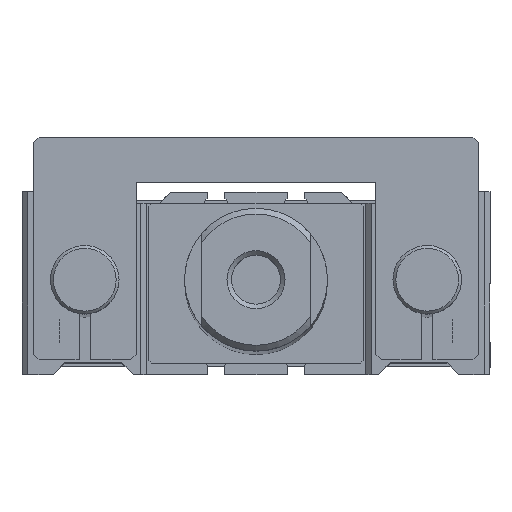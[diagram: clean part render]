
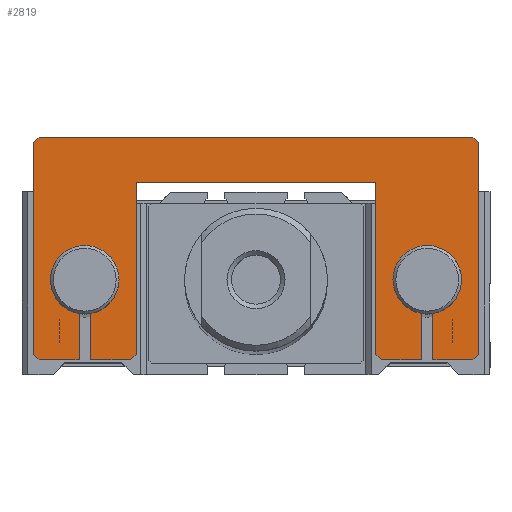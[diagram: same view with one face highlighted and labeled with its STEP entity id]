
A CAD part, top view. The second image highlights one B-rep face of the part: STEP entity #2819.
In plain terms, the highlighted planar face has unit normal (0, 0, 1).
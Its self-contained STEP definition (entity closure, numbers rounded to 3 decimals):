
#291=CARTESIAN_POINT('',(-29.0,-5.916,379.0));
#292=VERTEX_POINT('',#291);
#293=CARTESIAN_POINT('',(-31.0,-5.916,379.0));
#294=VERTEX_POINT('',#293);
#295=CARTESIAN_POINT('',(-30.0,0.0,379.0));
#296=DIRECTION('',(0.0,0.0,1.0));
#297=DIRECTION('',(0.0,-1.0,0.0));
#298=AXIS2_PLACEMENT_3D('',#295,#296,#297);
#299=CIRCLE('',#298,6.);
#300=EDGE_CURVE('',#292,#294,#299,.T.);
#378=CARTESIAN_POINT('',(31.,-5.916,379.0));
#379=VERTEX_POINT('',#378);
#380=CARTESIAN_POINT('',(29.,-5.916,379.0));
#381=VERTEX_POINT('',#380);
#382=CARTESIAN_POINT('',(30.0,0.0,379.0));
#383=DIRECTION('',(0.0,0.0,1.0));
#384=DIRECTION('',(0.0,-1.0,0.0));
#385=AXIS2_PLACEMENT_3D('',#382,#383,#384);
#386=CIRCLE('',#385,6.);
#387=EDGE_CURVE('',#379,#381,#386,.T.);
#2365=CARTESIAN_POINT('',(-39.0,24.,379.0));
#2366=VERTEX_POINT('',#2365);
#2367=CARTESIAN_POINT('',(-38.0,25.,379.0));
#2368=VERTEX_POINT('',#2367);
#2369=CARTESIAN_POINT('',(-39.0,24.,379.0));
#2370=DIRECTION('',(0.707,0.707,0.0));
#2371=VECTOR('',#2370,1.414);
#2372=LINE('',#2369,#2371);
#2373=EDGE_CURVE('',#2366,#2368,#2372,.T.);
#2429=CARTESIAN_POINT('',(-39.0,-13.,379.0));
#2430=VERTEX_POINT('',#2429);
#2437=CARTESIAN_POINT('',(-39.0,24.,379.0));
#2438=DIRECTION('',(0.0,-1.0,0.0));
#2439=VECTOR('',#2438,37.0);
#2440=LINE('',#2437,#2439);
#2441=EDGE_CURVE('',#2366,#2430,#2440,.T.);
#2622=CARTESIAN_POINT('',(38.0,25.,379.0));
#2623=VERTEX_POINT('',#2622);
#2630=CARTESIAN_POINT('',(39.0,24.,379.0));
#2631=VERTEX_POINT('',#2630);
#2632=CARTESIAN_POINT('',(38.0,25.,379.0));
#2633=DIRECTION('',(0.707,-0.707,0.0));
#2634=VECTOR('',#2633,1.414);
#2635=LINE('',#2632,#2634);
#2636=EDGE_CURVE('',#2623,#2631,#2635,.T.);
#2653=CARTESIAN_POINT('',(39.0,-13.,379.0));
#2654=VERTEX_POINT('',#2653);
#2655=CARTESIAN_POINT('',(39.0,-13.,379.0));
#2656=DIRECTION('',(0.0,1.0,0.0));
#2657=VECTOR('',#2656,37.0);
#2658=LINE('',#2655,#2657);
#2659=EDGE_CURVE('',#2654,#2631,#2658,.T.);
#2686=CARTESIAN_POINT('',(0.0,-14.,379.0));
#2687=DIRECTION('',(0.0,0.0,1.0));
#2688=DIRECTION('',(1.0,0.0,0.0));
#2689=AXIS2_PLACEMENT_3D('',#2686,#2687,#2688);
#2690=PLANE('',#2689);
#2691=ORIENTED_EDGE('',*,*,#2373,.F.);
#2692=ORIENTED_EDGE('',*,*,#2441,.T.);
#2693=CARTESIAN_POINT('',(-38.0,-14.,379.0));
#2694=VERTEX_POINT('',#2693);
#2695=CARTESIAN_POINT('',(-38.0,-14.,379.0));
#2696=DIRECTION('',(-0.707,0.707,0.0));
#2697=VECTOR('',#2696,1.414);
#2698=LINE('',#2695,#2697);
#2699=EDGE_CURVE('',#2694,#2430,#2698,.T.);
#2700=ORIENTED_EDGE('',*,*,#2699,.F.);
#2701=CARTESIAN_POINT('',(-31.0,-14.,379.0));
#2702=VERTEX_POINT('',#2701);
#2703=CARTESIAN_POINT('',(-38.0,-14.,379.0));
#2704=DIRECTION('',(1.0,0.0,0.0));
#2705=VECTOR('',#2704,7.0);
#2706=LINE('',#2703,#2705);
#2707=EDGE_CURVE('',#2694,#2702,#2706,.T.);
#2708=ORIENTED_EDGE('',*,*,#2707,.T.);
#2709=CARTESIAN_POINT('',(-31.0,-14.,379.0));
#2710=DIRECTION('',(0.0,1.0,0.0));
#2711=VECTOR('',#2710,8.084);
#2712=LINE('',#2709,#2711);
#2713=EDGE_CURVE('',#2702,#294,#2712,.T.);
#2714=ORIENTED_EDGE('',*,*,#2713,.T.);
#2715=ORIENTED_EDGE('',*,*,#300,.F.);
#2716=CARTESIAN_POINT('',(-29.0,-14.,379.0));
#2717=VERTEX_POINT('',#2716);
#2718=CARTESIAN_POINT('',(-29.0,-5.916,379.0));
#2719=DIRECTION('',(0.0,-1.0,0.0));
#2720=VECTOR('',#2719,8.084);
#2721=LINE('',#2718,#2720);
#2722=EDGE_CURVE('',#292,#2717,#2721,.T.);
#2723=ORIENTED_EDGE('',*,*,#2722,.T.);
#2724=CARTESIAN_POINT('',(-22.0,-14.,379.0));
#2725=VERTEX_POINT('',#2724);
#2726=CARTESIAN_POINT('',(-29.0,-14.,379.0));
#2727=DIRECTION('',(1.0,0.0,0.0));
#2728=VECTOR('',#2727,7.0);
#2729=LINE('',#2726,#2728);
#2730=EDGE_CURVE('',#2717,#2725,#2729,.T.);
#2731=ORIENTED_EDGE('',*,*,#2730,.T.);
#2732=CARTESIAN_POINT('',(-21.0,-13.,379.0));
#2733=VERTEX_POINT('',#2732);
#2734=CARTESIAN_POINT('',(-21.0,-13.,379.0));
#2735=DIRECTION('',(-0.707,-0.707,0.0));
#2736=VECTOR('',#2735,1.414);
#2737=LINE('',#2734,#2736);
#2738=EDGE_CURVE('',#2733,#2725,#2737,.T.);
#2739=ORIENTED_EDGE('',*,*,#2738,.F.);
#2740=CARTESIAN_POINT('',(-21.0,17.,379.0));
#2741=VERTEX_POINT('',#2740);
#2742=CARTESIAN_POINT('',(-21.0,-13.,379.0));
#2743=DIRECTION('',(0.0,1.0,0.0));
#2744=VECTOR('',#2743,30.);
#2745=LINE('',#2742,#2744);
#2746=EDGE_CURVE('',#2733,#2741,#2745,.T.);
#2747=ORIENTED_EDGE('',*,*,#2746,.T.);
#2748=CARTESIAN_POINT('',(21.0,17.,379.0));
#2749=VERTEX_POINT('',#2748);
#2750=CARTESIAN_POINT('',(-21.0,17.,379.0));
#2751=DIRECTION('',(1.0,0.0,0.0));
#2752=VECTOR('',#2751,42.0);
#2753=LINE('',#2750,#2752);
#2754=EDGE_CURVE('',#2741,#2749,#2753,.T.);
#2755=ORIENTED_EDGE('',*,*,#2754,.T.);
#2756=CARTESIAN_POINT('',(21.0,-13.,379.0));
#2757=VERTEX_POINT('',#2756);
#2758=CARTESIAN_POINT('',(21.0,17.,379.0));
#2759=DIRECTION('',(0.0,-1.0,0.0));
#2760=VECTOR('',#2759,30.);
#2761=LINE('',#2758,#2760);
#2762=EDGE_CURVE('',#2749,#2757,#2761,.T.);
#2763=ORIENTED_EDGE('',*,*,#2762,.T.);
#2764=CARTESIAN_POINT('',(22.0,-14.,379.0));
#2765=VERTEX_POINT('',#2764);
#2766=CARTESIAN_POINT('',(22.0,-14.,379.0));
#2767=DIRECTION('',(-0.707,0.707,0.0));
#2768=VECTOR('',#2767,1.414);
#2769=LINE('',#2766,#2768);
#2770=EDGE_CURVE('',#2765,#2757,#2769,.T.);
#2771=ORIENTED_EDGE('',*,*,#2770,.F.);
#2772=CARTESIAN_POINT('',(29.,-14.,379.0));
#2773=VERTEX_POINT('',#2772);
#2774=CARTESIAN_POINT('',(22.0,-14.,379.0));
#2775=DIRECTION('',(1.0,0.0,0.0));
#2776=VECTOR('',#2775,7.);
#2777=LINE('',#2774,#2776);
#2778=EDGE_CURVE('',#2765,#2773,#2777,.T.);
#2779=ORIENTED_EDGE('',*,*,#2778,.T.);
#2780=CARTESIAN_POINT('',(29.,-14.,379.0));
#2781=DIRECTION('',(0.0,1.0,0.0));
#2782=VECTOR('',#2781,8.084);
#2783=LINE('',#2780,#2782);
#2784=EDGE_CURVE('',#2773,#381,#2783,.T.);
#2785=ORIENTED_EDGE('',*,*,#2784,.T.);
#2786=ORIENTED_EDGE('',*,*,#387,.F.);
#2787=CARTESIAN_POINT('',(31.,-14.,379.0));
#2788=VERTEX_POINT('',#2787);
#2789=CARTESIAN_POINT('',(31.,-5.916,379.0));
#2790=DIRECTION('',(0.0,-1.0,0.0));
#2791=VECTOR('',#2790,8.084);
#2792=LINE('',#2789,#2791);
#2793=EDGE_CURVE('',#379,#2788,#2792,.T.);
#2794=ORIENTED_EDGE('',*,*,#2793,.T.);
#2795=CARTESIAN_POINT('',(38.0,-14.,379.0));
#2796=VERTEX_POINT('',#2795);
#2797=CARTESIAN_POINT('',(31.,-14.,379.0));
#2798=DIRECTION('',(1.0,0.0,0.0));
#2799=VECTOR('',#2798,7.);
#2800=LINE('',#2797,#2799);
#2801=EDGE_CURVE('',#2788,#2796,#2800,.T.);
#2802=ORIENTED_EDGE('',*,*,#2801,.T.);
#2803=CARTESIAN_POINT('',(39.0,-13.,379.0));
#2804=DIRECTION('',(-0.707,-0.707,0.0));
#2805=VECTOR('',#2804,1.414);
#2806=LINE('',#2803,#2805);
#2807=EDGE_CURVE('',#2654,#2796,#2806,.T.);
#2808=ORIENTED_EDGE('',*,*,#2807,.F.);
#2809=ORIENTED_EDGE('',*,*,#2659,.T.);
#2810=ORIENTED_EDGE('',*,*,#2636,.F.);
#2811=CARTESIAN_POINT('',(-38.0,25.,379.0));
#2812=DIRECTION('',(1.0,0.0,0.0));
#2813=VECTOR('',#2812,76.0);
#2814=LINE('',#2811,#2813);
#2815=EDGE_CURVE('',#2368,#2623,#2814,.T.);
#2816=ORIENTED_EDGE('',*,*,#2815,.F.);
#2817=EDGE_LOOP('',(#2691,#2692,#2700,#2708,#2714,#2715,#2723,#2731,#2739,#2747,#2755,#2763,#2771,#2779,#2785,#2786,#2794,#2802,#2808,#2809,#2810,#2816));
#2818=FACE_OUTER_BOUND('',#2817,.T.);
#2819=ADVANCED_FACE('',(#2818),#2690,.T.);
